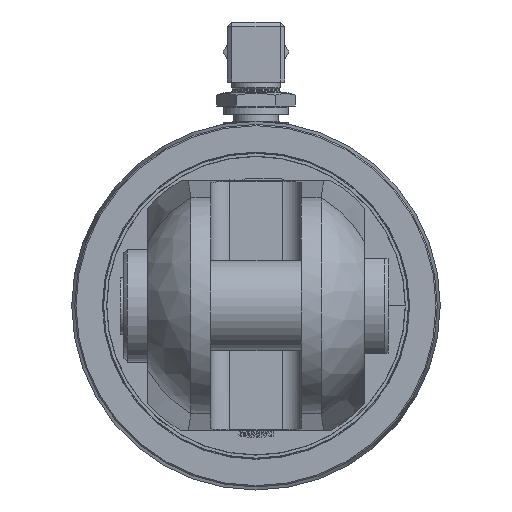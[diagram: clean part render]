
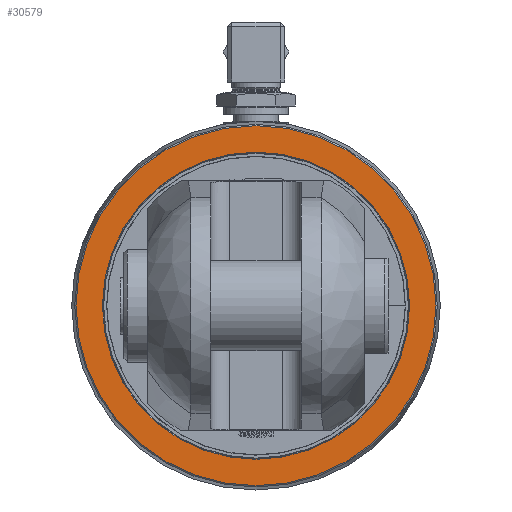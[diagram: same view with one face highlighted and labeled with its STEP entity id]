
A CAD part, left-side view. The second image highlights one B-rep face of the part: STEP entity #30579.
In plain terms, the highlighted planar face has unit normal (-1, 0, 0).
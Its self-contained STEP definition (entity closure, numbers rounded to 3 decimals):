
#391=FACE_BOUND('',#5784,.T.);
#2322=CIRCLE('',#31850,75.888);
#2324=CIRCLE('',#31854,64.75);
#3958=FACE_OUTER_BOUND('',#5783,.T.);
#5783=EDGE_LOOP('',(#26111));
#5784=EDGE_LOOP('',(#26112));
#13952=VERTEX_POINT('',#55468);
#13954=VERTEX_POINT('',#55474);
#18035=EDGE_CURVE('',#13952,#13952,#2322,.T.);
#18037=EDGE_CURVE('',#13954,#13954,#2324,.T.);
#26111=ORIENTED_EDGE('',*,*,#18035,.F.);
#26112=ORIENTED_EDGE('',*,*,#18037,.F.);
#27396=PLANE('',#31853);
#30579=ADVANCED_FACE('',(#3958,#391),#27396,.F.);
#31850=AXIS2_PLACEMENT_3D('',#55469,#36861,#36862);
#31853=AXIS2_PLACEMENT_3D('',#55473,#36867,#36868);
#31854=AXIS2_PLACEMENT_3D('',#55475,#36869,#36870);
#36861=DIRECTION('center_axis',(1.,0.,0.));
#36862=DIRECTION('ref_axis',(0.,-1.,0.));
#36867=DIRECTION('center_axis',(1.,0.,0.));
#36868=DIRECTION('ref_axis',(0.,0.,-1.));
#36869=DIRECTION('center_axis',(-1.,0.,0.));
#36870=DIRECTION('ref_axis',(0.,-1.,0.));
#55468=CARTESIAN_POINT('',(-665.5,75.888,0.));
#55469=CARTESIAN_POINT('Origin',(-665.5,0.,0.));
#55473=CARTESIAN_POINT('Origin',(-665.5,0.,0.));
#55474=CARTESIAN_POINT('',(-665.5,64.75,0.));
#55475=CARTESIAN_POINT('Origin',(-665.5,0.,0.));
